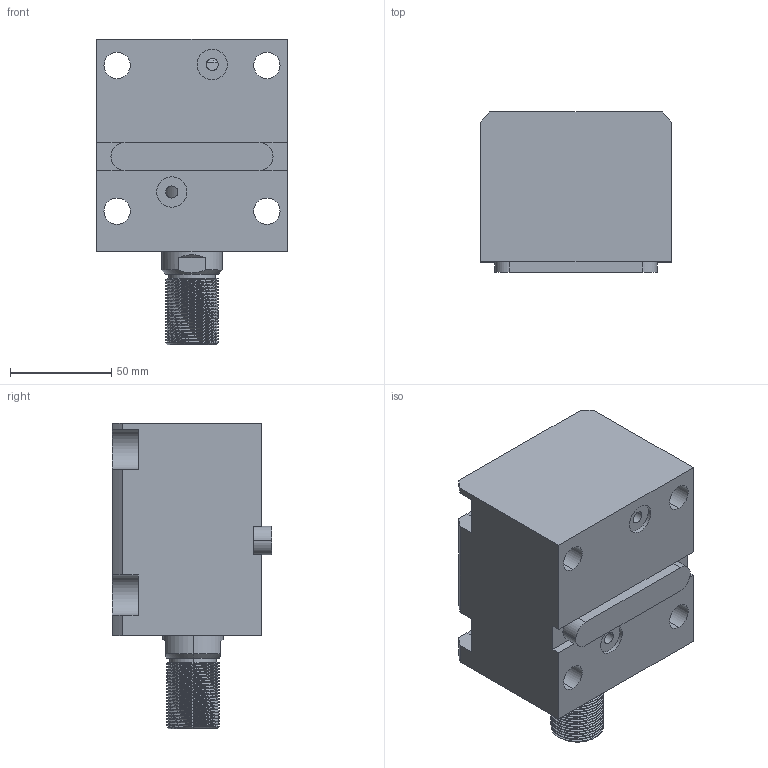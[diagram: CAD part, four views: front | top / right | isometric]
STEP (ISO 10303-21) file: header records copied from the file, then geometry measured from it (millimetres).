
FILE_DESCRIPTION (( 'STEP AP203' ), '1' );
FILE_NAME ('CHTB-LAM50-45W.STEP', '2018-05-23T10:28:00', ( '' ), ( '' ), 'SwSTEP 2.0', 'SolidWorks 2015', '' );
FILE_SCHEMA (( 'CONFIG_CONTROL_DESIGN' ));
Length unit declared in the file: millimetre
Products named in the file (4): 活塞杆LAM50-45W; CHTB-LAM50-45W; 掛极LAM50-45W; CHTM-SDMA50QG
Assembly tree (4 placements, depth 2):
  CHTB-LAM50-45W
    掛极LAM50-45W  x2
    活塞杆LAM50-45W
    CHTM-SDMA50QG
Bounding box: 94 x 79 x 151 mm (x, y, z)
Volume: 1130017.8 mm3; surface area: 190927.5 mm2
Topology: 4 solids, 4 shells, 324 faces, 899 edges, 599 vertices
Faces by surface type: cylinder 188, plane 87, bspline 18, torus 16, cone 15
Entity records: 14834 total; most frequent: CARTESIAN_POINT 8868, ORIENTED_EDGE 1296, DIRECTION 1025, EDGE_CURVE 648, VERTEX_POINT 436, AXIS2_PLACEMENT_3D 396, EDGE_LOOP 264, ADVANCED_FACE 234
